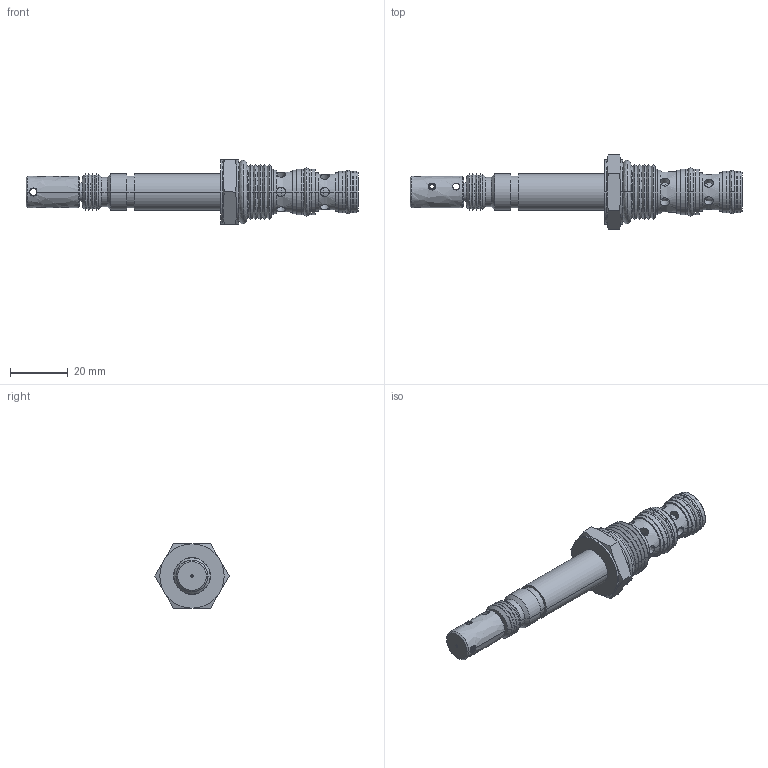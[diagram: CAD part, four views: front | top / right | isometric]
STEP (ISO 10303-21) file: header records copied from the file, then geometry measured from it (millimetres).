
FILE_DESCRIPTION((''),'2;1');
FILE_NAME('U:\Solid model CD\Solid model full\Solenoid\STEP\PPS3D0M-3D Full.stp','2008-06-23T11:36:50',('Dan'),(''),'Autodesk Inventor 9','Autodesk Inventor 9','');
FILE_SCHEMA(('AUTOMOTIVE_DESIGN { 1 0 10303 214 1 1 1 1 }'));
Length unit declared in the file: inch
Products named in the file (10): PPS3D0M-3D Full; PPS3D0M-3D Full1; PPS3D0M-3D Full2; PPS3D0M-3D Full3; PPS3D0M-3D Full4; PPS3D0M-3D Full5; PPS3D0M-3D Full6; PPS3D0M-3D Full7; PPS3D0M-3D Full8; PPS3D0M-3D Full9
Assembly tree (9 placements, depth 2):
  PPS3D0M-3D Full
    PPS3D0M-3D Full1
    PPS3D0M-3D Full2
    PPS3D0M-3D Full3
    PPS3D0M-3D Full4
    PPS3D0M-3D Full5
    PPS3D0M-3D Full6
    PPS3D0M-3D Full7
    PPS3D0M-3D Full8
    PPS3D0M-3D Full9
Bounding box: 114.81 x 25.66 x 22.23 mm (x, y, z)
Volume: 16650.8 mm3; surface area: 10167.8 mm2
Topology: 9 solids, 9 shells, 335 faces, 781 edges, 467 vertices
Faces by surface type: bspline 319, cone 6, cylinder 6, plane 4
Entity records: 14883 total; most frequent: CARTESIAN_POINT 8173, ORIENTED_EDGE 1562, DIRECTION 1062, EDGE_CURVE 781, VERTEX_POINT 467, AXIS2_PLACEMENT_3D 392, EDGE_LOOP 384, CIRCLE 357
